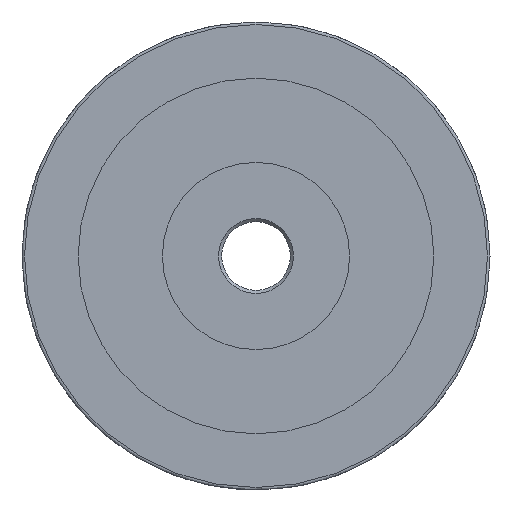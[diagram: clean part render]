
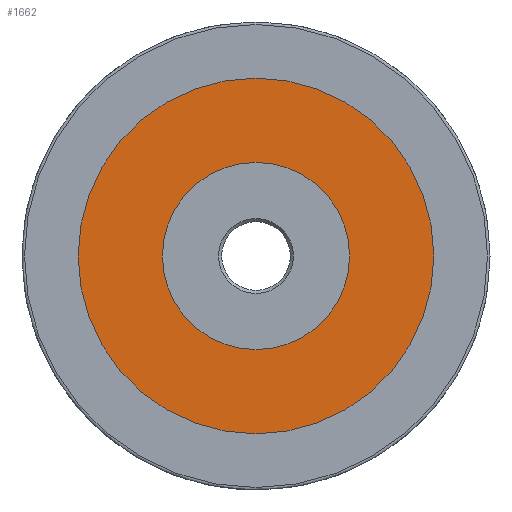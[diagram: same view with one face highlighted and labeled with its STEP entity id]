
A CAD part, left-side view. The second image highlights one B-rep face of the part: STEP entity #1662.
In plain terms, the highlighted planar face has unit normal (-1, 0, 0).
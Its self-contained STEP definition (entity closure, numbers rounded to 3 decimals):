
#1589=CARTESIAN_POINT('',(-518.928,-488.109,-30.0));
#1590=VERTEX_POINT('',#1589);
#1597=CARTESIAN_POINT('',(-518.928,-488.109,30.));
#1598=VERTEX_POINT('',#1597);
#1599=CARTESIAN_POINT('',(-518.928,-488.109,0.0));
#1600=DIRECTION('',(-1.0,0.0,0.0));
#1601=DIRECTION('',(0.0,0.0,-1.0));
#1602=AXIS2_PLACEMENT_3D('',#1599,#1600,#1601);
#1603=CIRCLE('',#1602,30.);
#1604=EDGE_CURVE('',#1590,#1598,#1603,.T.);
#1606=CARTESIAN_POINT('',(-518.928,-488.109,0.0));
#1607=DIRECTION('',(-1.0,0.0,0.0));
#1608=DIRECTION('',(0.0,0.0,-1.0));
#1609=AXIS2_PLACEMENT_3D('',#1606,#1607,#1608);
#1610=CIRCLE('',#1609,30.);
#1611=EDGE_CURVE('',#1598,#1590,#1610,.T.);
#1633=CARTESIAN_POINT('',(-518.928,-374.109,114.));
#1634=DIRECTION('',(1.0,0.0,0.0));
#1635=DIRECTION('',(0.0,-1.0,0.0));
#1636=AXIS2_PLACEMENT_3D('',#1633,#1634,#1635);
#1637=PLANE('',#1636);
#1638=CARTESIAN_POINT('',(-518.928,-488.109,-57.0));
#1639=VERTEX_POINT('',#1638);
#1640=CARTESIAN_POINT('',(-518.928,-488.109,57.));
#1641=VERTEX_POINT('',#1640);
#1642=CARTESIAN_POINT('',(-518.928,-488.109,0.));
#1643=DIRECTION('',(-1.0,0.0,0.0));
#1644=DIRECTION('',(0.0,0.0,-1.0));
#1645=AXIS2_PLACEMENT_3D('',#1642,#1643,#1644);
#1646=CIRCLE('',#1645,57.);
#1647=EDGE_CURVE('',#1639,#1641,#1646,.T.);
#1648=ORIENTED_EDGE('',*,*,#1647,.T.);
#1649=CARTESIAN_POINT('',(-518.928,-488.109,0.));
#1650=DIRECTION('',(-1.0,0.0,0.0));
#1651=DIRECTION('',(0.0,0.0,-1.0));
#1652=AXIS2_PLACEMENT_3D('',#1649,#1650,#1651);
#1653=CIRCLE('',#1652,57.);
#1654=EDGE_CURVE('',#1641,#1639,#1653,.T.);
#1655=ORIENTED_EDGE('',*,*,#1654,.T.);
#1656=EDGE_LOOP('',(#1648,#1655));
#1657=FACE_OUTER_BOUND('',#1656,.T.);
#1658=ORIENTED_EDGE('',*,*,#1611,.F.);
#1659=ORIENTED_EDGE('',*,*,#1604,.F.);
#1660=EDGE_LOOP('',(#1658,#1659));
#1661=FACE_BOUND('',#1660,.T.);
#1662=ADVANCED_FACE('',(#1657,#1661),#1637,.F.);
